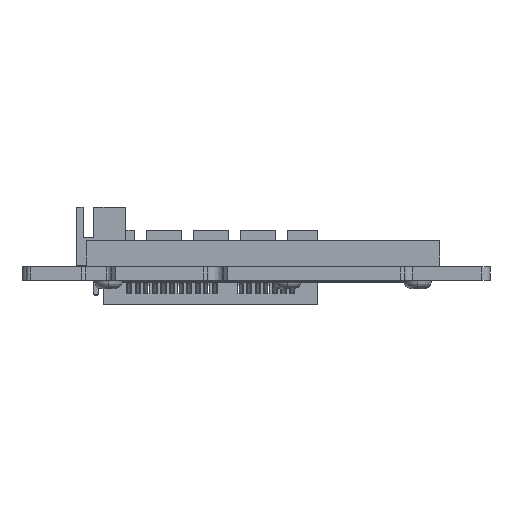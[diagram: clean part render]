
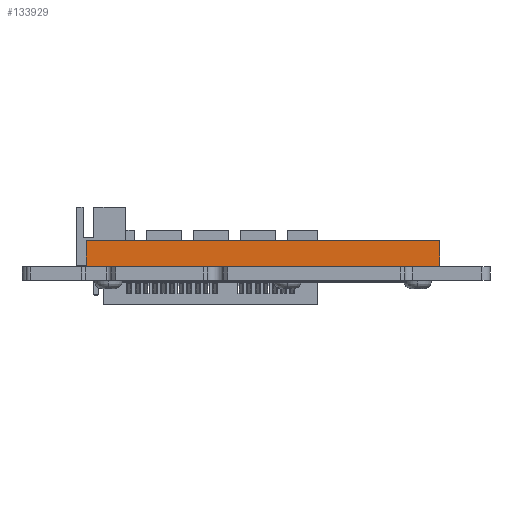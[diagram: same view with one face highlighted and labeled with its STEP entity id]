
A CAD part, front view. The second image highlights one B-rep face of the part: STEP entity #133929.
In plain terms, the highlighted planar face has unit normal (0, -1, 0).
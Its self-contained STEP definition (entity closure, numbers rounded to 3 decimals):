
#133929 = ADVANCED_FACE('',(#133930),#133964,.F.);
#133930 = FACE_BOUND('',#133931,.T.);
#133931 = EDGE_LOOP('',(#133932,#133942,#133950,#133958));
#133932 = ORIENTED_EDGE('',*,*,#133933,.T.);
#133933 = EDGE_CURVE('',#133934,#133936,#133938,.T.);
#133934 = VERTEX_POINT('',#133935);
#133935 = CARTESIAN_POINT('',(32.778,24.251,0.));
#133936 = VERTEX_POINT('',#133937);
#133937 = CARTESIAN_POINT('',(73.978,24.251,0.));
#133938 = LINE('',#133939,#133940);
#133939 = CARTESIAN_POINT('',(0.,24.251,0.));
#133940 = VECTOR('',#133941,1.);
#133941 = DIRECTION('',(1.,0.,0.));
#133942 = ORIENTED_EDGE('',*,*,#133943,.F.);
#133943 = EDGE_CURVE('',#133944,#133936,#133946,.T.);
#133944 = VERTEX_POINT('',#133945);
#133945 = CARTESIAN_POINT('',(73.978,24.251,3.));
#133946 = LINE('',#133947,#133948);
#133947 = CARTESIAN_POINT('',(73.978,24.251,3.));
#133948 = VECTOR('',#133949,1.);
#133949 = DIRECTION('',(0.,0.,-1.));
#133950 = ORIENTED_EDGE('',*,*,#133951,.F.);
#133951 = EDGE_CURVE('',#133952,#133944,#133954,.T.);
#133952 = VERTEX_POINT('',#133953);
#133953 = CARTESIAN_POINT('',(32.778,24.251,3.));
#133954 = LINE('',#133955,#133956);
#133955 = CARTESIAN_POINT('',(0.,24.251,3.));
#133956 = VECTOR('',#133957,1.);
#133957 = DIRECTION('',(1.,0.,0.));
#133958 = ORIENTED_EDGE('',*,*,#133959,.T.);
#133959 = EDGE_CURVE('',#133952,#133934,#133960,.T.);
#133960 = LINE('',#133961,#133962);
#133961 = CARTESIAN_POINT('',(32.778,24.251,3.));
#133962 = VECTOR('',#133963,1.);
#133963 = DIRECTION('',(0.,0.,-1.));
#133964 = PLANE('',#133965);
#133965 = AXIS2_PLACEMENT_3D('',#133966,#133967,#133968);
#133966 = CARTESIAN_POINT('',(0.,24.251,3.));
#133967 = DIRECTION('',(0.,1.,0.));
#133968 = DIRECTION('',(0.,0.,1.));
